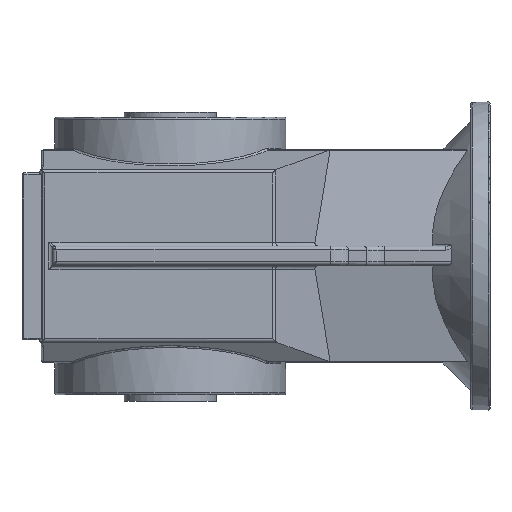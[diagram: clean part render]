
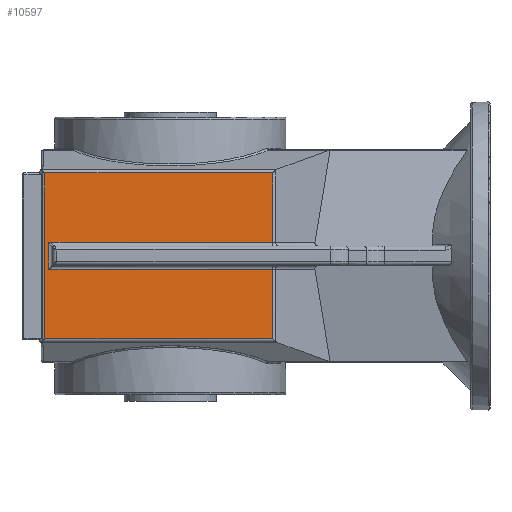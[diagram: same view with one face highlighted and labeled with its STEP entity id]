
A CAD part, top view. The second image highlights one B-rep face of the part: STEP entity #10597.
In plain terms, the highlighted planar face has unit normal (0, 0, 1).
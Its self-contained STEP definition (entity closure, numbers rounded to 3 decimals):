
#1617=CARTESIAN_POINT('',(-105.,7.,180.0));
#1618=VERTEX_POINT('',#1617);
#1986=CARTESIAN_POINT('',(-105.,-7.0,180.0));
#1987=VERTEX_POINT('',#1986);
#2412=CARTESIAN_POINT('',(11.182,-43.012,180.0));
#2413=VERTEX_POINT('',#2412);
#2421=CARTESIAN_POINT('',(-107.172,-43.012,180.0));
#2422=VERTEX_POINT('',#2421);
#2423=CARTESIAN_POINT('',(11.182,-43.012,180.0));
#2424=DIRECTION('',(-1.0,0.0,0.0));
#2425=VECTOR('',#2424,118.354);
#2426=LINE('',#2423,#2425);
#2427=EDGE_CURVE('',#2413,#2422,#2426,.T.);
#10519=CARTESIAN_POINT('',(-107.172,43.012,180.0));
#10520=VERTEX_POINT('',#10519);
#10537=CARTESIAN_POINT('',(-107.172,-43.012,180.0));
#10538=DIRECTION('',(0.0,1.0,0.0));
#10539=VECTOR('',#10538,86.024);
#10540=LINE('',#10537,#10539);
#10541=EDGE_CURVE('',#2422,#10520,#10540,.T.);
#10546=CARTESIAN_POINT('',(-37.5,-34.,180.0));
#10547=DIRECTION('',(0.0,0.0,1.0));
#10548=DIRECTION('',(1.0,0.0,0.0));
#10549=AXIS2_PLACEMENT_3D('',#10546,#10547,#10548);
#10550=PLANE('',#10549);
#10551=ORIENTED_EDGE('',*,*,#10541,.F.);
#10552=ORIENTED_EDGE('',*,*,#2427,.F.);
#10553=CARTESIAN_POINT('',(11.182,-7.,180.0));
#10554=VERTEX_POINT('',#10553);
#10555=CARTESIAN_POINT('',(11.182,-7.0,180.0));
#10556=DIRECTION('',(0.0,-1.0,0.0));
#10557=VECTOR('',#10556,36.012);
#10558=LINE('',#10555,#10557);
#10559=EDGE_CURVE('',#10554,#2413,#10558,.T.);
#10560=ORIENTED_EDGE('',*,*,#10559,.F.);
#10561=CARTESIAN_POINT('',(-105.,-7.0,180.0));
#10562=DIRECTION('',(1.0,0.0,0.0));
#10563=VECTOR('',#10562,116.182);
#10564=LINE('',#10561,#10563);
#10565=EDGE_CURVE('',#1987,#10554,#10564,.T.);
#10566=ORIENTED_EDGE('',*,*,#10565,.F.);
#10567=CARTESIAN_POINT('',(-105.,7.,180.0));
#10568=DIRECTION('',(0.0,-1.0,0.0));
#10569=VECTOR('',#10568,14.);
#10570=LINE('',#10567,#10569);
#10571=EDGE_CURVE('',#1618,#1987,#10570,.T.);
#10572=ORIENTED_EDGE('',*,*,#10571,.F.);
#10573=CARTESIAN_POINT('',(11.182,7.,180.0));
#10574=VERTEX_POINT('',#10573);
#10575=CARTESIAN_POINT('',(11.182,7.,180.0));
#10576=DIRECTION('',(-1.0,0.0,0.0));
#10577=VECTOR('',#10576,116.182);
#10578=LINE('',#10575,#10577);
#10579=EDGE_CURVE('',#10574,#1618,#10578,.T.);
#10580=ORIENTED_EDGE('',*,*,#10579,.F.);
#10581=CARTESIAN_POINT('',(11.182,43.012,180.0));
#10582=VERTEX_POINT('',#10581);
#10583=CARTESIAN_POINT('',(11.182,43.012,180.0));
#10584=DIRECTION('',(0.0,-1.0,0.0));
#10585=VECTOR('',#10584,36.012);
#10586=LINE('',#10583,#10585);
#10587=EDGE_CURVE('',#10582,#10574,#10586,.T.);
#10588=ORIENTED_EDGE('',*,*,#10587,.F.);
#10589=CARTESIAN_POINT('',(-107.172,43.012,180.0));
#10590=DIRECTION('',(1.0,0.0,0.0));
#10591=VECTOR('',#10590,118.354);
#10592=LINE('',#10589,#10591);
#10593=EDGE_CURVE('',#10520,#10582,#10592,.T.);
#10594=ORIENTED_EDGE('',*,*,#10593,.F.);
#10595=EDGE_LOOP('',(#10551,#10552,#10560,#10566,#10572,#10580,#10588,#10594));
#10596=FACE_OUTER_BOUND('',#10595,.T.);
#10597=ADVANCED_FACE('',(#10596),#10550,.T.);
